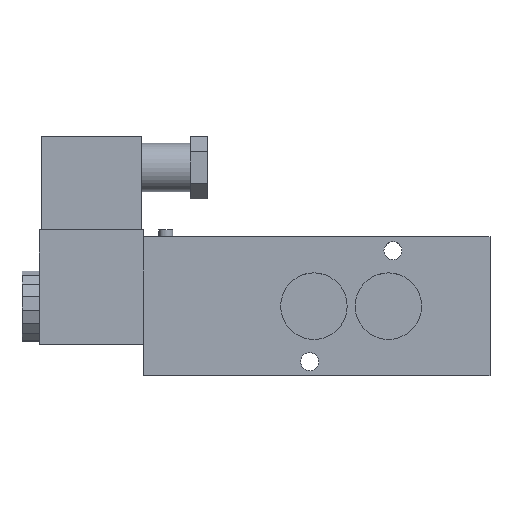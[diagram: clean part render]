
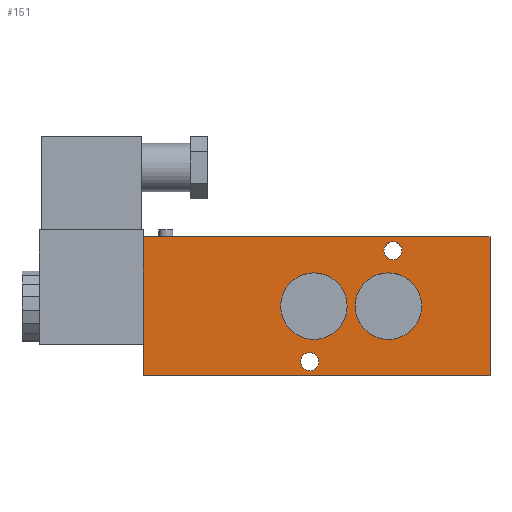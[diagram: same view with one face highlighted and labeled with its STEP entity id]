
A CAD part, top view. The second image highlights one B-rep face of the part: STEP entity #151.
In plain terms, the highlighted planar face has unit normal (0, 0, 1).
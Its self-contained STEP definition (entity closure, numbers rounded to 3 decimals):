
#151=ADVANCED_FACE('',(#414,#416,#418,#420,#422),#424,.T.);
#414=FACE_BOUND('',#415,.T.);
#415=EDGE_LOOP('',(#880,#881,#882,#883));
#416=FACE_BOUND('',#417,.T.);
#417=EDGE_LOOP('',(#884));
#418=FACE_BOUND('',#419,.T.);
#419=EDGE_LOOP('',(#885));
#420=FACE_BOUND('',#421,.T.);
#421=EDGE_LOOP('',(#886));
#422=FACE_BOUND('',#423,.T.);
#423=EDGE_LOOP('',(#887));
#424=PLANE('',#425);
#425=AXIS2_PLACEMENT_3D('',#426,#427,#428);
#426=CARTESIAN_POINT('',(-100.,20.,13.5));
#427=DIRECTION('',(0.,0.,1.));
#428=DIRECTION('',(0.,-1.,0.));
#880=ORIENTED_EDGE('',*,*,#1148,.T.);
#881=ORIENTED_EDGE('',*,*,#1131,.T.);
#882=ORIENTED_EDGE('',*,*,#1149,.F.);
#883=ORIENTED_EDGE('',*,*,#1113,.F.);
#884=ORIENTED_EDGE('',*,*,#1106,.T.);
#885=ORIENTED_EDGE('',*,*,#1104,.T.);
#886=ORIENTED_EDGE('',*,*,#1150,.T.);
#887=ORIENTED_EDGE('',*,*,#1151,.T.);
#1104=EDGE_CURVE('',#1252,#1252,#1253,.F.);
#1106=EDGE_CURVE('',#1256,#1256,#1257,.F.);
#1113=EDGE_CURVE('',#1269,#1271,#1272,.T.);
#1131=EDGE_CURVE('',#1304,#1302,#1305,.T.);
#1148=EDGE_CURVE('',#1269,#1304,#1330,.T.);
#1149=EDGE_CURVE('',#1271,#1302,#1331,.T.);
#1150=EDGE_CURVE('',#1332,#1332,#1333,.F.);
#1151=EDGE_CURVE('',#1334,#1334,#1335,.F.);
#1252=VERTEX_POINT('',#1504);
#1253=CIRCLE('',#1505,2.6);
#1256=VERTEX_POINT('',#1514);
#1257=CIRCLE('',#1515,2.6);
#1269=VERTEX_POINT('',#1541);
#1271=VERTEX_POINT('',#1545);
#1272=LINE('',#1546,#1547);
#1302=VERTEX_POINT('',#1613);
#1304=VERTEX_POINT('',#1617);
#1305=LINE('',#1618,#1619);
#1330=LINE('',#1682,#1683);
#1331=LINE('',#1685,#1686);
#1332=VERTEX_POINT('',#1688);
#1333=CIRCLE('',#1689,9.6);
#1334=VERTEX_POINT('',#1693);
#1335=CIRCLE('',#1694,9.6);
#1504=CARTESIAN_POINT('',(-25.4,16.,13.5));
#1505=AXIS2_PLACEMENT_3D('',#1506,#1507,#1508);
#1506=CARTESIAN_POINT('',(-28.,16.,13.5));
#1507=DIRECTION('',(0.,0.,1.));
#1508=DIRECTION('',(1.,0.,0.));
#1514=CARTESIAN_POINT('',(-49.4,-16.,13.5));
#1515=AXIS2_PLACEMENT_3D('',#1516,#1517,#1518);
#1516=CARTESIAN_POINT('',(-52.,-16.,13.5));
#1517=DIRECTION('',(0.,0.,1.));
#1518=DIRECTION('',(1.,0.,0.));
#1541=CARTESIAN_POINT('',(-100.,20.,13.5));
#1545=CARTESIAN_POINT('',(0.,20.,13.5));
#1546=CARTESIAN_POINT('',(-100.,20.,13.5));
#1547=VECTOR('',#1548,1.);
#1548=DIRECTION('',(1.,0.,0.));
#1613=CARTESIAN_POINT('',(0.,-20.,13.5));
#1617=CARTESIAN_POINT('',(-100.,-20.,13.5));
#1618=CARTESIAN_POINT('',(-100.,-20.,13.5));
#1619=VECTOR('',#1620,1.);
#1620=DIRECTION('',(1.,0.,0.));
#1682=CARTESIAN_POINT('',(-100.,20.,13.5));
#1683=VECTOR('',#1684,1.);
#1684=DIRECTION('',(0.,-1.,0.));
#1685=CARTESIAN_POINT('',(0.,20.,13.5));
#1686=VECTOR('',#1687,1.);
#1687=DIRECTION('',(0.,-1.,0.));
#1688=CARTESIAN_POINT('',(-41.2,0.,13.5));
#1689=AXIS2_PLACEMENT_3D('',#1690,#1691,#1692);
#1690=CARTESIAN_POINT('',(-50.8,0.,13.5));
#1691=DIRECTION('',(0.,0.,1.));
#1692=DIRECTION('',(1.,0.,0.));
#1693=CARTESIAN_POINT('',(-19.7,0.,13.5));
#1694=AXIS2_PLACEMENT_3D('',#1695,#1696,#1697);
#1695=CARTESIAN_POINT('',(-29.3,0.,13.5));
#1696=DIRECTION('',(0.,0.,1.));
#1697=DIRECTION('',(1.,0.,0.));
